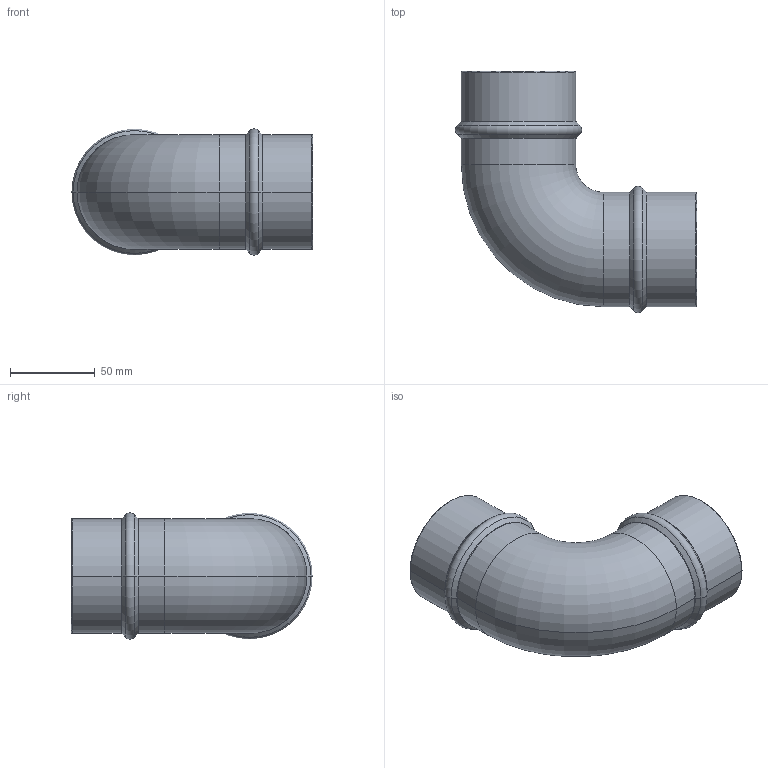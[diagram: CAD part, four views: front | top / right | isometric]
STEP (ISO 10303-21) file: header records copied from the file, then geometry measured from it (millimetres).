
FILE_DESCRIPTION((''),'2;1');
FILE_NAME('2014600300','2017-05-15T',('Administrator'),(''),'PRO/ENGINEER BY PARAMETRIC TECHNOLOGY CORPORATION, 2009360','PRO/ENGINEER BY PARAMETRIC TECHNOLOGY CORPORATION, 2009360','');
FILE_SCHEMA(('AUTOMOTIVE_DESIGN_CC2 { 1 2 10303 214 -1 1 5 2 }'));
Length unit declared in the file: millimetre
Products named in the file (1): 2014600300
Bounding box: 142.24 x 142.24 x 74.47 mm (x, y, z)
Volume: 124251.7 mm3; surface area: 78943.6 mm2
Topology: 1 solids, 1 shells, 42 faces, 84 edges, 44 vertices
Faces by surface type: torus 20, cylinder 12, cone 8, plane 2
Entity records: 1383 total; most frequent: DIRECTION 232, CARTESIAN_POINT 170, ORIENTED_EDGE 168, AXIS2_PLACEMENT_3D 106, PRESENTATION_STYLE_ASSIGNMENT 85, STYLED_ITEM 85, CURVE_STYLE 84, EDGE_CURVE 84
